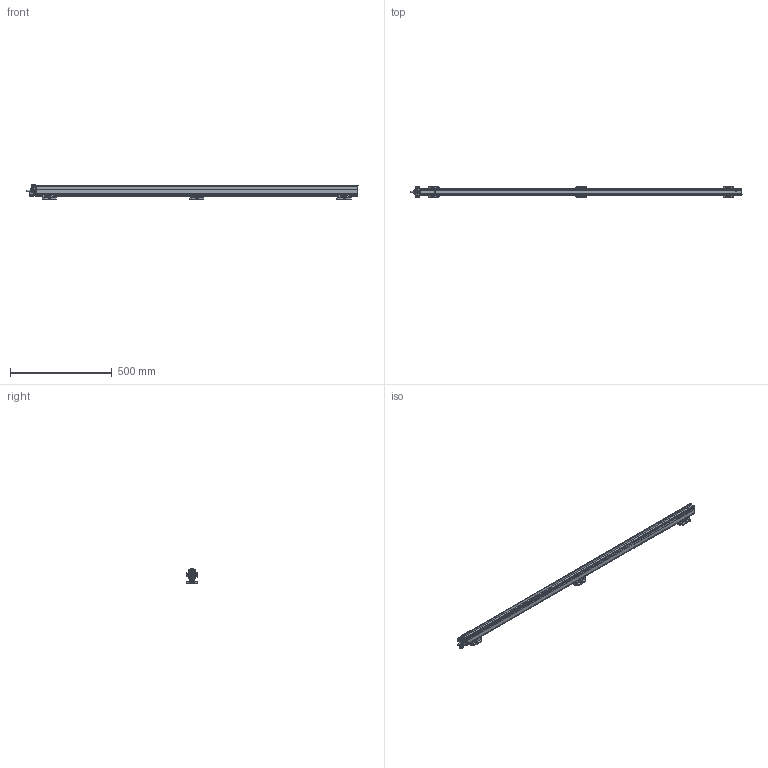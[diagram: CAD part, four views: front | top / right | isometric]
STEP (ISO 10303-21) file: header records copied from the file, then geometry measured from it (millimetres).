
FILE_DESCRIPTION(/* description */ (''),/* implementation_level */ '2;1');
FILE_NAME(/* name */ 'PERFORMAXEASYEX_1410_3D_GB',/* time_stamp */ '2017-05-31T09:49:28+02:00',/* author */ (''),/* organization */ (''),/* preprocessor_version */ 'ST-DEVELOPER v15.7',/* originating_system */ 'HiCAD 2015 2002.1 Build 408',/* authorisation */ '');
FILE_SCHEMA (('AUTOMOTIVE_DESIGN { 1 0 10303 214 1 1 1 1 }'));
Length unit declared in the file: millimetre
Products named in the file (66): Root; -_Performax (IQ) Easy Ex 1410 eff (Speed); -_LED; -_PROFILE; -_POTTING; -_CAP DE; -_CAP CE; -_CABLE; -_PIN; -_COVER; 4532000100_Mounting bracket bars; -_Side piece; -_Slide piece; -_Bracket small; DIN 13-M3; DIN 76-M3; 2047507823_PE connection; DIN 916-M4x20-45H_Set screws; GEWINDE; ISO 8738-4-160 HV_Washers for studs; ISO 4032-M4-10_Hexagon nuts; DIN 127-A 4-FSt_Washers; 2047493713_Cable exits; -_Exit K; -_Clip; -_Gland body; -_Exit S; -_Exit Q; -_Washer ø20mm, 5mm thick for corr. conduit (exit
 Q); -_Exit I; -_Exit U; -_Exit A; Thread_2
Assembly tree (65 placements, depth 5):
  Root
    -_Performax (IQ) Easy Ex 1410 eff (Speed)
      -_LED
      -_PROFILE
      -_POTTING
      -_CAP DE
      -_CAP CE
      -_CABLE
      -_PIN
      -_PIN
      -_COVER
      4532000100_Mounting bracket bars
        -_Side piece
        -_Side piece
        -_Slide piece
        -_Bracket small
          DIN 13-M3
          DIN 13-M3
          DIN 76-M3
          DIN 76-M3
      4532000100_Mounting bracket bars
        -_Side piece
        -_Side piece
        -_Slide piece
        -_Bracket small
          DIN 13-M3
          DIN 13-M3
          DIN 76-M3
          DIN 76-M3
      4532000100_Mounting bracket bars
        -_Side piece
        -_Side piece
        -_Slide piece
        -_Bracket small
          DIN 13-M3
          DIN 13-M3
          DIN 76-M3
          DIN 76-M3
      2047507823_PE connection
        DIN 916-M4x20-45H_Set screws
          GEWINDE
        ISO 8738-4-160 HV_Washers for studs
        ISO 4032-M4-10_Hexagon nuts
          GEWINDE
        DIN 127-A 4-FSt_Washers
        ISO 4032-M4-10_Hexagon nuts
          GEWINDE
      2047493713_Cable exits
        -_Exit K
          -_Clip
          -_Gland body
        -_Exit S
          -_Clip
          -_Gland body
        -_Exit Q
          -_Clip
          -_Washer ø20mm, 5mm thick for corr. conduit (exit
 Q)
          -_Gland body
        -_Exit I
          -_Clip
Bounding box: 1632.4 x 58.79 x 68.9 mm (x, y, z)
Volume: 1978895.9 mm3; surface area: 576177.3 mm2
Topology: 55 solids, 64 shells, 2590 faces, 6638 edges, 4032 vertices
Faces by surface type: plane 1152, cylinder 1031, torus 134, sphere 126, bspline 96, cone 51
Full cylindrical faces by diameter (mm): 2.387 x12, 3 x24, 3.141 x4, 4 x5, 4.3 x1, 5.4 x2, 5.5 x15, 8 x2, 11.3 x4, 12.5 x4, 13 x1, 14.6 x5, 15.1 x5, 18.4 x4, 20 x7, 20.2 x4
Entity records: 141652 total; most frequent: CARTESIAN_POINT 28981, DIRECTION 13310, PRESENTATION_STYLE_ASSIGNMENT 12610, OVER_RIDING_STYLED_ITEM 12556, DRAUGHTING_PRE_DEFINED_CURVE_FONT 12538, CURVE_STYLE 12538, ORIENTED_EDGE 12538, EDGE_CURVE 6269
